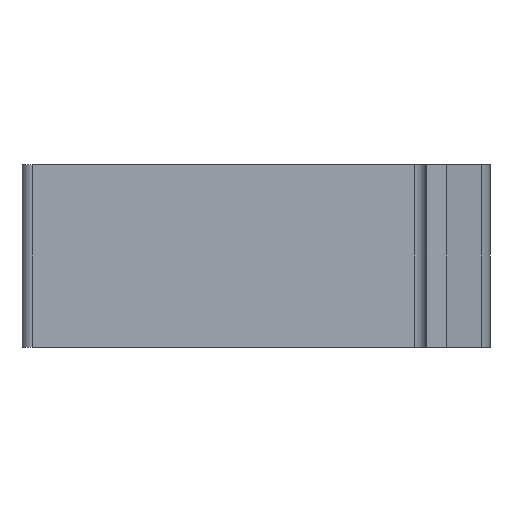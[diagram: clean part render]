
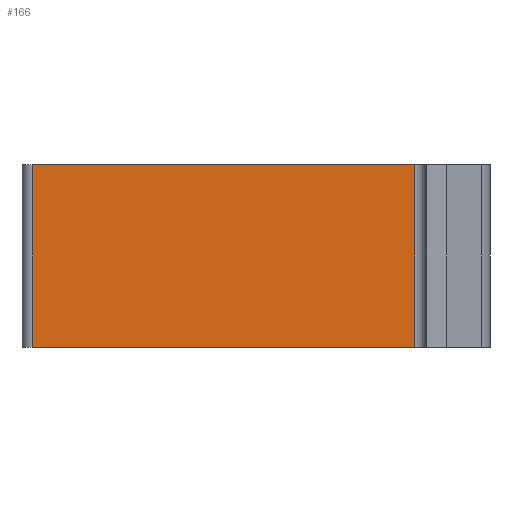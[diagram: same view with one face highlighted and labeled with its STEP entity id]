
A CAD part, left-side view. The second image highlights one B-rep face of the part: STEP entity #166.
In plain terms, the highlighted planar face has unit normal (-1, 0, 0).
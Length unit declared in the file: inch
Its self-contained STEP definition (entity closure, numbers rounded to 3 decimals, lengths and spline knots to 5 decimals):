
#1 = CARTESIAN_POINT ( 'NONE',  ( 0., -0.77638, 0.36 ) ) ;
#51 = ORIENTED_EDGE ( 'NONE', *, *, #680, .T. ) ;
#76 = DIRECTION ( 'NONE',  ( 0., 0., -1. ) ) ;
#84 = LINE ( 'NONE', #108, #495 ) ;
#105 = VERTEX_POINT ( 'NONE', #117 ) ;
#108 = CARTESIAN_POINT ( 'NONE',  ( 0., -0.77638, 0.36 ) ) ;
#117 = CARTESIAN_POINT ( 'NONE',  ( 0., -0.02, 0. ) ) ;
#127 = ORIENTED_EDGE ( 'NONE', *, *, #389, .F. ) ;
#166 = ADVANCED_FACE ( 'NONE', ( #435 ), #695, .F. ) ;
#167 = VECTOR ( 'NONE', #187, 39.37008 ) ;
#173 = VECTOR ( 'NONE', #210, 39.37008 ) ;
#174 = DIRECTION ( 'NONE',  ( 1., 0., 0. ) ) ;
#178 = VERTEX_POINT ( 'NONE', #1 ) ;
#187 = DIRECTION ( 'NONE',  ( 0., -1., 0. ) ) ;
#210 = DIRECTION ( 'NONE',  ( 0., -1., 0. ) ) ;
#231 = EDGE_CURVE ( 'NONE', #607, #105, #486, .T. ) ;
#323 = CARTESIAN_POINT ( 'NONE',  ( 0., -0.77638, 0. ) ) ;
#389 = EDGE_CURVE ( 'NONE', #178, #419, #84, .T. ) ;
#397 = ORIENTED_EDGE ( 'NONE', *, *, #535, .F. ) ;
#419 = VERTEX_POINT ( 'NONE', #323 ) ;
#435 = FACE_OUTER_BOUND ( 'NONE', #612, .T. ) ;
#450 = DIRECTION ( 'NONE',  ( 0., 0., -1. ) ) ;
#465 = CARTESIAN_POINT ( 'NONE',  ( 0., -0.02, 0.36 ) ) ;
#474 = CARTESIAN_POINT ( 'NONE',  ( 0., -0.77638, 0.36 ) ) ;
#486 = LINE ( 'NONE', #659, #723 ) ;
#495 = VECTOR ( 'NONE', #639, 39.37008 ) ;
#515 = CARTESIAN_POINT ( 'NONE',  ( 0., -0.77638, 0.36 ) ) ;
#535 = EDGE_CURVE ( 'NONE', #607, #178, #714, .T. ) ;
#554 = CARTESIAN_POINT ( 'NONE',  ( 0., -0.77638, 0. ) ) ;
#607 = VERTEX_POINT ( 'NONE', #465 ) ;
#612 = EDGE_LOOP ( 'NONE', ( #397, #752, #51, #127 ) ) ;
#639 = DIRECTION ( 'NONE',  ( 0., 0., -1. ) ) ;
#646 = LINE ( 'NONE', #554, #173 ) ;
#654 = AXIS2_PLACEMENT_3D ( 'NONE', #515, #174, #450 ) ;
#659 = CARTESIAN_POINT ( 'NONE',  ( 0., -0.02, 0.36 ) ) ;
#680 = EDGE_CURVE ( 'NONE', #105, #419, #646, .T. ) ;
#695 = PLANE ( 'NONE',  #654 ) ;
#714 = LINE ( 'NONE', #474, #167 ) ;
#723 = VECTOR ( 'NONE', #76, 39.37008 ) ;
#752 = ORIENTED_EDGE ( 'NONE', *, *, #231, .T. ) ;
